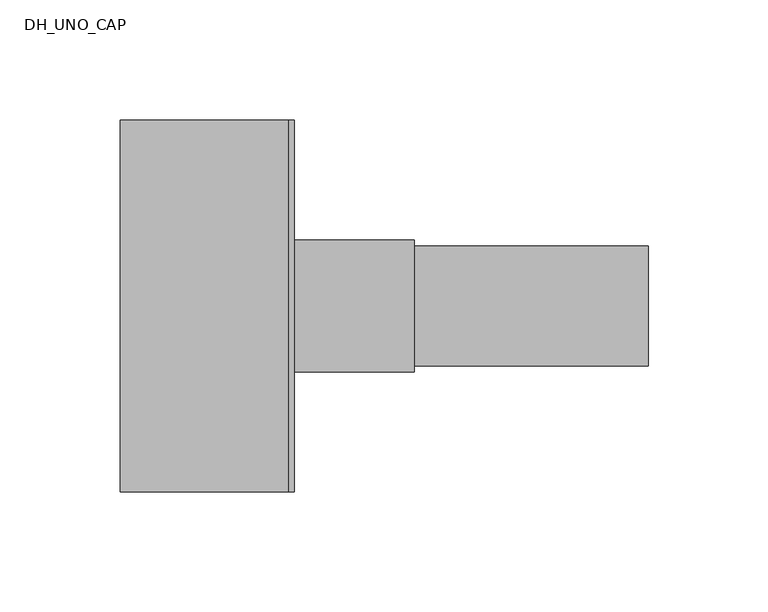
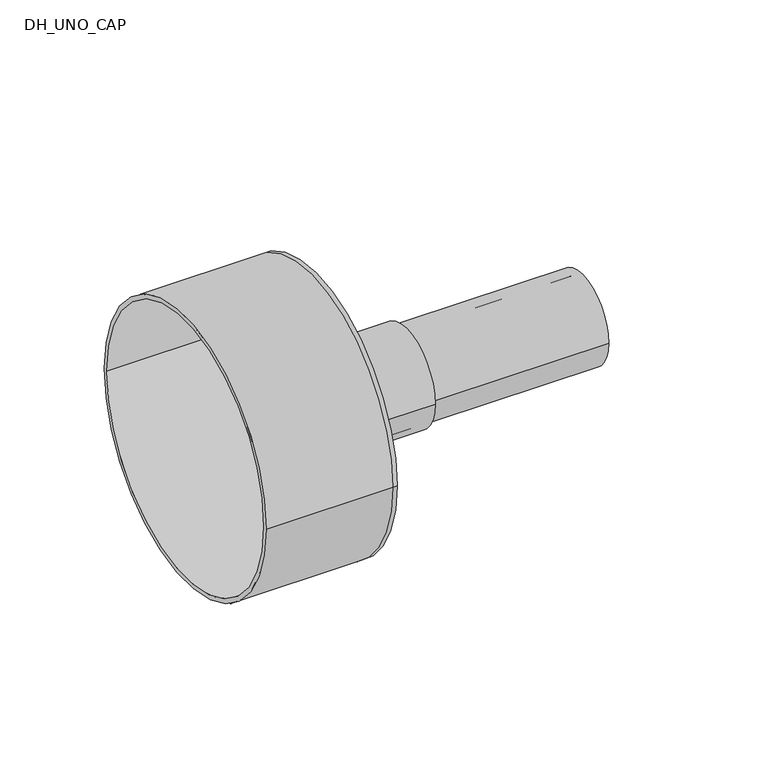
"""IFC4 building model written with IfcOpenShell, lengths in millimetres: pipe fitting geometry, DH_UNO_CAP : RAUVITHERM UNO 11 Heating - Rubber Cap."""

import ifcopenshell
import ifcopenshell.guid

model = None  # the IFC model being written
_history = None  # IfcOwnerHistory: only IFC2X3 demands one
_inside = {}  # id of a spatial element -> (the spatial element, [elements in it])
_under = {}  # id of a project, library or spatial element -> (it, [spatial elements below it])
_declared = {}  # id of a project -> (the project, [libraries it declares])
_typed = {}  # id of a type object -> (the type object, [elements of that type])
_made_of = {}  # id of a material, layer set ... -> (it, [elements and type objects made of it])


def new_model(schema):
    """Start an empty IFC model of exactly this schema.

    Asked for "IFC4X3", IfcOpenShell would pick the latest addendum, in which some entities
    have other attributes; the version numbers below select the first issue.
    IFC2X3 requires an IfcOwnerHistory on every rooted entity: one is made here for all.
    """
    global model, _history
    if schema == "IFC4X3":
        model = ifcopenshell.file(schema_version=(4, 3, 0, 0))
    else:
        model = ifcopenshell.file(schema=schema)
    _inside.clear()
    _under.clear()
    _declared.clear()
    _typed.clear()
    _made_of.clear()
    _history = None
    if model.schema == "IFC2X3":
        org = make("IfcOrganization", Name="unknown")
        user = make(
            "IfcPersonAndOrganization",
            ThePerson=make("IfcPerson", FamilyName="unknown"),
            TheOrganization=org,
        )
        app = make(
            "IfcApplication",
            ApplicationDeveloper=org,
            Version="unknown",
            ApplicationFullName="unknown",
            ApplicationIdentifier="unknown",
        )
        _history = make(
            "IfcOwnerHistory",
            OwningUser=user,
            OwningApplication=app,
            ChangeAction="ADDED",
            CreationDate=0,
        )
    return model


def make(cls, **values):
    """One entity of the class cls with the attributes given. An attribute that is None is left unset."""
    return model.create_entity(
        cls, **{name: value for name, value in values.items() if value is not None}
    )


def rooted(cls, **values):
    """An entity with a GlobalId (a new one), such as an element, a storey or a relation."""
    return make(cls, GlobalId=ifcopenshell.guid.new(), OwnerHistory=_history, **values)


def si_unit(unit_type, name, prefix=None):
    """IfcSIUnit, for example si_unit("LENGTHUNIT", "METRE", prefix="MILLI")."""
    return make("IfcSIUnit", UnitType=unit_type, Prefix=prefix, Name=name)


def assignment(units):
    """IfcUnitAssignment: the units of a project."""
    return None if units is None else make("IfcUnitAssignment", Units=units)


def point(xyz):
    """IfcCartesianPoint."""
    return None if xyz is None else make("IfcCartesianPoint", Coordinates=xyz)


def direction(xyz):
    """IfcDirection."""
    return None if xyz is None else make("IfcDirection", DirectionRatios=xyz)


def frame(location, z_axis=None, x_axis=None):
    """IfcAxis2Placement3D, a coordinate frame: its origin and axes. An axis left out is left unset."""
    return make(
        "IfcAxis2Placement3D",
        Location=point(location),
        Axis=direction(z_axis),
        RefDirection=direction(x_axis),
    )


def frame_2d(location, x_axis=None):
    """IfcAxis2Placement2D, a coordinate frame in the plane: its origin and x axis."""
    return make(
        "IfcAxis2Placement2D", Location=point(location), RefDirection=direction(x_axis)
    )


def origin():
    """The frame at (0, 0, 0) with its axes left unset."""
    return frame((0.0, 0.0, 0.0))


def origin_2d():
    """The frame at (0, 0) in the plane with its x axis left unset."""
    return frame_2d((0.0, 0.0))


def place(relative_to, where):
    """IfcLocalPlacement: puts the frame where relative to a parent placement (None: the world)."""
    return make(
        "IfcLocalPlacement", PlacementRelTo=relative_to, RelativePlacement=where
    )


def context(
    kind, dimensions, precision=None, world=None, true_north=None, identifier=None
):
    """IfcGeometricRepresentationContext, for example the 3D "Model" context."""
    return make(
        "IfcGeometricRepresentationContext",
        ContextIdentifier=identifier,
        ContextType=kind,
        CoordinateSpaceDimension=dimensions,
        Precision=precision,
        WorldCoordinateSystem=world,
        TrueNorth=true_north,
    )


def project(units=None, contexts=None):
    """IfcProject with its units and contexts."""
    return rooted(
        "IfcProject",
        Name="project",
        RepresentationContexts=contexts,
        UnitsInContext=assignment(units),
    )


def spatial(cls, under=None, at=None, **own):
    """A site, building, storey or space (cls), placed at a placement, below another one or the project."""
    s = rooted(cls, ObjectPlacement=at, **own)
    if under is not None:
        _under.setdefault(under.id(), (under, []))[1].append(s)
    return s


def polyline(points):
    """IfcPolyline through the points."""
    return make("IfcPolyline", Points=[point(p) for p in points])


def circle_curve(where, radius):
    """IfcCircle in the frame where."""
    return make("IfcCircle", Position=where, Radius=radius)


def trimmed(basis, trim1, trim2, sense, master):
    """IfcTrimmedCurve: the piece of a basis curve between two trims."""
    return make(
        "IfcTrimmedCurve",
        BasisCurve=basis,
        Trim1=trim1,
        Trim2=trim2,
        SenseAgreement=sense,
        MasterRepresentation=master,
    )


def segment(curve, same_sense, transition):
    """IfcCompositeCurveSegment."""
    return make(
        "IfcCompositeCurveSegment",
        Transition=transition,
        SameSense=same_sense,
        ParentCurve=curve,
    )


def composite_curve(segments, self_intersect=None):
    """IfcCompositeCurve: segments joined end to end."""
    return make("IfcCompositeCurve", Segments=segments, SelfIntersect=self_intersect)


def outline(outer, holes=None, kind="AREA"):
    """IfcArbitraryClosedProfileDef: a profile drawn as a closed curve; with holes, ...WithVoids."""
    if holes is None:
        return make("IfcArbitraryClosedProfileDef", ProfileType=kind, OuterCurve=outer)
    return make(
        "IfcArbitraryProfileDefWithVoids",
        ProfileType=kind,
        OuterCurve=outer,
        InnerCurves=holes,
    )


def extrude(swept, where, along, depth):
    """IfcExtrudedAreaSolid: the profile swept, set in the frame where, extruded along a direction by depth."""
    return make(
        "IfcExtrudedAreaSolid",
        SweptArea=swept,
        Position=where,
        ExtrudedDirection=direction(along),
        Depth=depth,
    )


def shape(context_of_items, identifier, shape_type, items):
    """IfcShapeRepresentation: the items that make up one representation, for example the "Body"."""
    return make(
        "IfcShapeRepresentation",
        ContextOfItems=context_of_items,
        RepresentationIdentifier=identifier,
        RepresentationType=shape_type,
        Items=items,
    )


def source(mapping_origin, context_of_items, identifier, shape_type, items):
    """IfcRepresentationMap: a shape defined once, which mapped items show again and again."""
    return make(
        "IfcRepresentationMap",
        MappingOrigin=mapping_origin,
        MappedRepresentation=shape(context_of_items, identifier, shape_type, items),
    )


def transform(
    local_origin,
    x_axis=None,
    y_axis=None,
    z_axis=None,
    scale=None,
    scale2=None,
    scale3=None,
    uniform=True,
):
    """IfcCartesianTransformationOperator3D, or its non-uniform kind. x_axis, y_axis, z_axis: its Axis1, 2, 3."""
    if uniform:
        return make(
            "IfcCartesianTransformationOperator3D",
            Axis1=direction(x_axis),
            Axis2=direction(y_axis),
            LocalOrigin=point(local_origin),
            Scale=scale,
            Axis3=direction(z_axis),
        )
    return make(
        "IfcCartesianTransformationOperator3DnonUniform",
        Axis1=direction(x_axis),
        Axis2=direction(y_axis),
        LocalOrigin=point(local_origin),
        Scale=scale,
        Axis3=direction(z_axis),
        Scale2=scale2,
        Scale3=scale3,
    )


def mapped(mapping_source, mapping_target):
    """IfcMappedItem: shows the shape of a source again, moved by a transform."""
    return make(
        "IfcMappedItem", MappingSource=mapping_source, MappingTarget=mapping_target
    )


def made_of(thing, what):
    """Note that an element or type object is made of a material, layer set ...; save() writes the relation."""
    if what is not None:
        _made_of.setdefault(what.id(), (what, []))[1].append(thing)
    return thing


def element(
    cls,
    number,
    at=None,
    inside=None,
    cuts=None,
    type_object=None,
    material=None,
    context=None,
    identifier="Body",
    shape_type=None,
    held_by="IfcProductDefinitionShape",
    body=None,
    shapes=None,
    **own,
):
    """One element of the class cls, such as IfcWall. Its Tag is "e" and its number.

    at: its placement. inside: the storey or other place that contains it. cuts: it is an
    opening in that element (IfcRelVoidsElement). A single representation is given by context,
    identifier, shape_type and body (its items); several are given by shapes. held_by: the class
    of the entity that holds the representations. save() writes the other relations.
    """
    e = rooted(cls, Tag="e%d" % number, ObjectPlacement=at, **own)
    if body is not None:
        shapes = [shape(context, identifier, shape_type, body)]
    if shapes is not None:
        e.Representation = make(held_by, Representations=shapes)
    if inside is not None:
        _inside.setdefault(inside.id(), (inside, []))[1].append(e)
    if cuts is not None:
        rooted(
            "IfcRelVoidsElement", RelatingBuildingElement=cuts, RelatedOpeningElement=e
        )
    if type_object is not None:
        _typed.setdefault(type_object.id(), (type_object, []))[1].append(e)
    return made_of(e, material)


def aggregate(whole, parts):
    """IfcRelAggregates: a whole, such as a stair, and the parts it consists of."""
    return rooted("IfcRelAggregates", RelatingObject=whole, RelatedObjects=parts)


def save(model, path):
    """Write the relations noted so far, then the file.

    IfcRelAggregates (storeys below a building ...), IfcRelContainedInSpatialStructure (elements
    in a storey), IfcRelDefinesByType, IfcRelAssociatesMaterial and IfcRelDeclares: one each for
    every whole, place, type object, material and project.
    """
    for whole, parts in _under.values():
        aggregate(whole, parts)
    for where, things in _inside.values():
        rooted(
            "IfcRelContainedInSpatialStructure",
            RelatedElements=things,
            RelatingStructure=where,
        )
    for kind, things in _typed.values():
        rooted("IfcRelDefinesByType", RelatedObjects=things, RelatingType=kind)
    for what, things in _made_of.values():
        rooted("IfcRelAssociatesMaterial", RelatedObjects=things, RelatingMaterial=what)
    for by, libraries in _declared.values():
        rooted("IfcRelDeclares", RelatingContext=by, RelatedDefinitions=libraries)
    model.write(path)


def plane_surface(at):
    """IfcPlane: the flat surface through the origin of the frame at, square to its z axis."""
    return make("IfcPlane", Position=at)


def cylinder_surface(at, radius):
    """IfcCylindricalSurface: all points at the distance radius from the z axis of the frame at."""
    return make("IfcCylindricalSurface", Position=at, Radius=radius)


def revolved_surface(curve, axis_point, axis_direction):
    """IfcSurfaceOfRevolution: the curve turned about the line through axis_point along axis_direction."""
    return make(
        "IfcSurfaceOfRevolution",
        SweptCurve=make("IfcArbitraryOpenProfileDef", ProfileType="CURVE", Curve=curve),
        AxisPosition=make("IfcAxis1Placement", Location=point(axis_point), Axis=direction(axis_direction)),
    )


def advanced_brep(points, edges, surfaces, faces):
    """IfcAdvancedBrep: a solid bounded by faces that lie on surfaces and meet in shared edges.

    An edge is (start, end): straight between two places in points (the first is 0);
    or (start, end, curve); or (start, end, curve, False) where it runs against its curve.
    A face is (place in surfaces, loops), or (place, loops, False) where it looks against
    its surface's normal. A loop lists edges by number (the first is 1), with a minus sign
    where the edge is run from its end to its start. The first loop is the outer one.
    """
    corners = [point(p) for p in points]
    vertices = [make("IfcVertexPoint", VertexGeometry=c) for c in corners]
    made = []
    for start, end, *more in edges:
        made.append(
            make(
                "IfcEdgeCurve",
                EdgeStart=vertices[start],
                EdgeEnd=vertices[end],
                EdgeGeometry=more[0] if more else make("IfcPolyline", Points=[corners[start], corners[end]]),
                SameSense=more[1] if len(more) > 1 else True,
            )
        )
    hull = []
    for where, loops, *sense in faces:
        bounds = []
        for j, loop in enumerate(loops):
            ring = [make("IfcOrientedEdge", EdgeElement=made[abs(k) - 1], Orientation=k > 0) for k in loop]
            bounds.append(
                make(
                    "IfcFaceOuterBound" if j == 0 else "IfcFaceBound",
                    Bound=make("IfcEdgeLoop", EdgeList=ring),
                    Orientation=True,
                )
            )
        hull.append(make("IfcAdvancedFace", Bounds=bounds, FaceSurface=surfaces[where], SameSense=sense[0] if sense else True))
    return make("IfcAdvancedBrep", Outer=make("IfcClosedShell", CfsFaces=hull))


def dh_uno_cap_5b9ad759(model_context):
    return source(origin(), model_context, "Body", "SolidModel", [
        extrude(outline(composite_curve([segment(trimmed(circle_curve(origin_2d(), 25.0), [point((-25.0, 0.0))], [point((25.0, 0.0))], False, "CARTESIAN"), True, "CONTINUOUS"), segment(trimmed(circle_curve(origin_2d(), 25.0), [point((25.0, 0.0))], [point((-25.0, 0.0))], False, "CARTESIAN"), True, "CONTINUOUS")], self_intersect=False), holes=[composite_curve([segment(trimmed(circle_curve(origin_2d(), 20.4), [point((-20.4, 0.0))], [point((20.4, 0.0))], True, "CARTESIAN"), True, "CONTINUOUS"), segment(trimmed(circle_curve(origin_2d(), 20.4), [point((20.4, 0.0))], [point((-20.4, 0.0))], True, "CARTESIAN"), True, "CONTINUOUS")], self_intersect=False)]), frame((0.0, 0.0, 0.0), z_axis=(1.0, 0.0, 0.0), x_axis=(0.0, 1.0, 0.0)), (0.0, 0.0, 1.0), 150.0),
        advanced_brep(
        [(-70.0, -77.5, 0.0), (-70.0, 77.5, 0.0), (-70.0, -75.0, 0.0), (-70.0, 75.0, 0.0), (0.0, -75.0, 0.0), (0.0, 75.0, 0.0), (0.0, -77.5, 0.0), (0.0, 77.5, 0.0), (0.0, 25.0, 0.0), (0.0, -25.0, 0.0), (2.5, -77.5, 0.0), (2.5, 77.5, 0.0), (2.5, -25.0, 0.0), (2.5, 25.0, 0.0)],
        [
            (0, 1, circle_curve(frame((-70.0, 0.0, 0.0), z_axis=(-1.0, 0.0, 0.0), x_axis=(0.0, 1.0, 0.0)), 77.5)),
            (1, 0, circle_curve(frame((-70.0, 0.0, 0.0), z_axis=(-1.0, 0.0, 0.0), x_axis=(0.0, 1.0, 0.0)), 77.5)),
            (2, 3, circle_curve(frame((-70.0, 0.0, 0.0), z_axis=(1.0, 0.0, 0.0), x_axis=(0.0, 1.0, 0.0)), 75.0)),
            (3, 2, circle_curve(frame((-70.0, 0.0, 0.0), z_axis=(1.0, 0.0, 0.0), x_axis=(0.0, 1.0, 0.0)), 75.0)),
            (2, 4),
            (4, 5, circle_curve(frame((0.0, 0.0, 0.0), z_axis=(1.0, 0.0, 0.0), x_axis=(0.0, 1.0, 0.0)), 75.0)),
            (5, 3),
            (5, 4, circle_curve(frame((0.0, 0.0, 0.0), z_axis=(1.0, 0.0, 0.0), x_axis=(0.0, 1.0, 0.0)), 75.0)),
            (0, 6),
            (6, 7, circle_curve(frame((0.0, 0.0, 0.0), z_axis=(-1.0, 0.0, 0.0), x_axis=(0.0, 1.0, 0.0)), 77.5)),
            (7, 1),
            (7, 6, circle_curve(frame((0.0, 0.0, 0.0), z_axis=(-1.0, 0.0, 0.0), x_axis=(0.0, 1.0, 0.0)), 77.5)),
            (8, 9, circle_curve(frame((0.0, 0.0, 0.0), z_axis=(1.0, 0.0, 0.0), x_axis=(0.0, 1.0, 0.0)), 25.0)),
            (9, 8, circle_curve(frame((0.0, 0.0, 0.0), z_axis=(1.0, 0.0, 0.0), x_axis=(0.0, 1.0, 0.0)), 25.0)),
            (10, 11, circle_curve(frame((2.5, 0.0, 0.0), z_axis=(1.0, 0.0, 0.0), x_axis=(0.0, 1.0, 0.0)), 77.5)),
            (11, 10, circle_curve(frame((2.5, 0.0, 0.0), z_axis=(1.0, 0.0, 0.0), x_axis=(0.0, 1.0, 0.0)), 77.5)),
            (12, 13, circle_curve(frame((2.5, 0.0, 0.0), z_axis=(-1.0, 0.0, 0.0), x_axis=(0.0, 1.0, 0.0)), 25.0)),
            (13, 12, circle_curve(frame((2.5, 0.0, 0.0), z_axis=(-1.0, 0.0, 0.0), x_axis=(0.0, 1.0, 0.0)), 25.0)),
            (11, 7),
            (6, 10),
            (8, 13),
            (12, 9),
        ],
        [
            plane_surface(frame((-70.0, 0.0, 0.0), z_axis=(-1.0, 0.0, 0.0), x_axis=(0.0, 0.0, 1.0))),
            revolved_surface(polyline([(0.0, 75.0, 0.0), (-70.0, 75.0, 0.0)]), (-70.0, 0.0, 0.0), (1.0, 0.0, 0.0)),
            cylinder_surface(frame((-70.0, 0.0, 0.0), z_axis=(-1.0, 0.0, 0.0), x_axis=(0.0, 1.0, 0.0)), 77.5),
            plane_surface(frame((0.0, 0.0, 0.0), z_axis=(-1.0, 0.0, 0.0), x_axis=(0.0, 0.0, 1.0))),
            plane_surface(frame((2.5, 0.0, 0.0), z_axis=(1.0, 0.0, 0.0), x_axis=(0.0, 0.0, 1.0))),
            cylinder_surface(frame((0.0, 0.0, 0.0), z_axis=(-1.0, 0.0, 0.0), x_axis=(0.0, 1.0, 0.0)), 77.5),
            revolved_surface(polyline([(0.0, 25.0, 0.0), (2.5, 25.0, 0.0)]), (0.0, 0.0, 0.0), (-1.0, 0.0, 0.0)),
        ],
        [
            (0, [[1, 2], [3, 4]]),
            (1, [[-3, 5, 6, 7]]),
            (1, [[-4, -7, 8, -5]]),
            (2, [[-1, 9, 10, 11]]),
            (2, [[-2, -11, 12, -9]]),
            (3, [[-6, -8], [13, 14]]),
            (4, [[15, 16], [17, 18]]),
            (5, [[-16, 19, -10, 20]]),
            (5, [[-15, -20, -12, -19]]),
            (6, [[21, -17, 22, -13]]),
            (6, [[-21, -14, -22, -18]]),
        ],
    ),
        extrude(outline(composite_curve([segment(trimmed(circle_curve(origin_2d(), 27.5), [point((-27.5, 0.0))], [point((27.5, 0.0))], False, "CARTESIAN"), True, "CONTINUOUS"), segment(trimmed(circle_curve(origin_2d(), 27.5), [point((27.5, 0.0))], [point((-27.5, 0.0))], False, "CARTESIAN"), True, "CONTINUOUS")], self_intersect=False), holes=[composite_curve([segment(trimmed(circle_curve(origin_2d(), 25.0), [point((-25.0, 0.0))], [point((25.0, 0.0))], True, "CARTESIAN"), True, "CONTINUOUS"), segment(trimmed(circle_curve(origin_2d(), 25.0), [point((25.0, 0.0))], [point((-25.0, 0.0))], True, "CARTESIAN"), True, "CONTINUOUS")], self_intersect=False)]), frame((2.5, 0.0, 0.0), z_axis=(1.0, 0.0, 0.0), x_axis=(0.0, 1.0, 0.0)), (0.0, 0.0, 1.0), 50.0),
    ])


if __name__ == "__main__":
    model = new_model("IFC4")
    model_context = context("Model", 3, world=origin())
    ifc_project = project(units=[si_unit("LENGTHUNIT", "METRE", prefix="MILLI")], contexts=[model_context])
    site = spatial("IfcSite", under=ifc_project)
    building = spatial("IfcBuilding", under=site)
    placement = place(None, origin())
    dh_uno_cap_shape = dh_uno_cap_5b9ad759(model_context)
    element("IfcPipeFitting", 1, ObjectType="DH_UNO_CAP : RAUVITHERM UNO 11 Heating - Rubber Cap", at=placement, inside=building, context=model_context, shape_type="MappedRepresentation", body=[
        mapped(dh_uno_cap_shape, transform((0.0, 0.0, 0.0), x_axis=(1.0, 0.0, 0.0), y_axis=(0.0, 1.0, 0.0), z_axis=(0.0, 0.0, 1.0))),
    ])
    save(model, "model.ifc")
